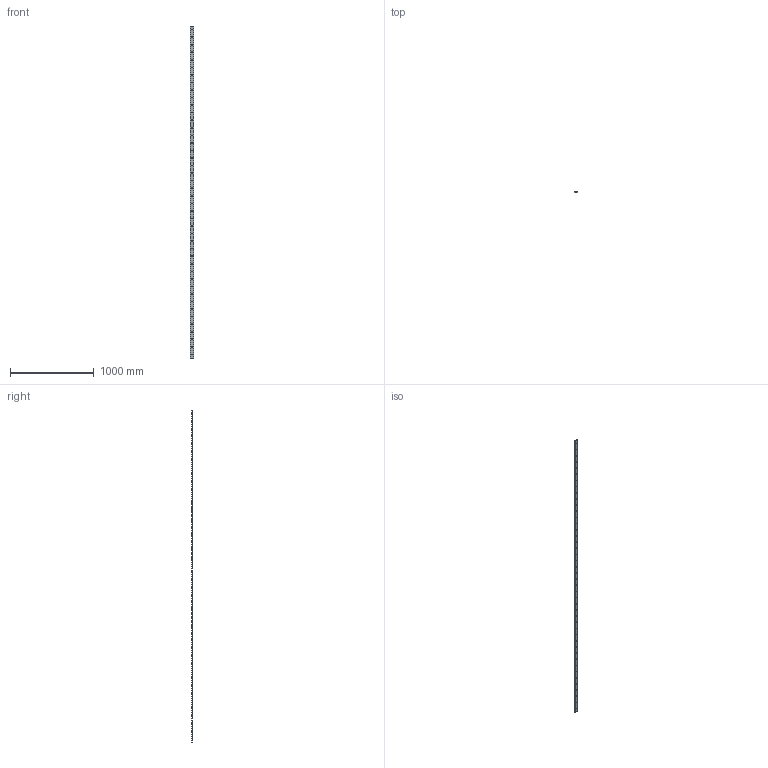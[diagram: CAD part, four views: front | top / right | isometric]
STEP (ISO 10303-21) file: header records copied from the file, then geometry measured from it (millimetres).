
FILE_DESCRIPTION(('STEP AP203'),'1');
FILE_NAME('flat_slide_ssm443956.stp','2021-10-13T02:19:05',('TraceParts'),('TraceParts S.A.'),'Spatial InterOp 3D',' ',' ');
FILE_SCHEMA(('CONFIG_CONTROL_DESIGN'));
Length unit declared in the file: millimetre
Products named in the file (1): 1
Bounding box: 43.68 x 6.1 x 3956 mm (x, y, z)
Volume: 963754.5 mm3; surface area: 367131.7 mm2
Topology: 1 solids, 1 shells, 100 faces, 294 edges, 196 vertices
Faces by surface type: cylinder 92, plane 8
Entity records: 3662 total; most frequent: DIRECTION 680, CARTESIAN_POINT 591, ORIENTED_EDGE 588, EDGE_CURVE 294, AXIS2_PLACEMENT_3D 285, VERTEX_POINT 196, EDGE_LOOP 188, CIRCLE 184
